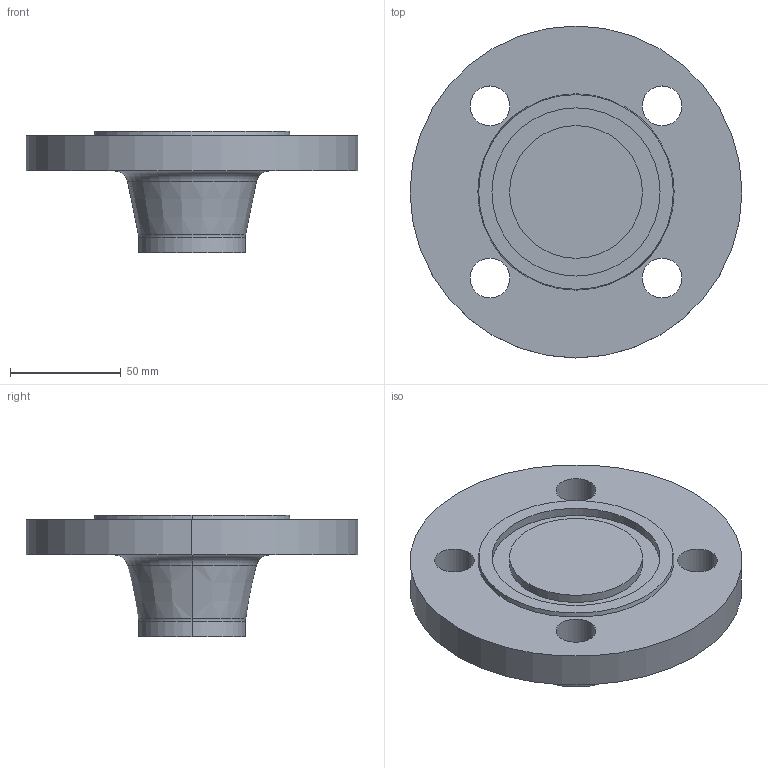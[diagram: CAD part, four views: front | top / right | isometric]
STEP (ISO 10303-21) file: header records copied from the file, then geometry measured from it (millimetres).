
FILE_DESCRIPTION (( 'STEP AP214' ), '1' );
FILE_NAME ('PN40 DN40 Type 21(ii) - Type D Face.STEP', '2018-12-30T01:28:39', ( '' ), ( '' ), 'SwSTEP 2.0', 'SolidWorks 2019', '' );
FILE_SCHEMA (( 'AUTOMOTIVE_DESIGN' ));
Length unit declared in the file: millimetre
Products named in the file (1): PN40 DN40 Type 21(ii) - Type D Face
Bounding box: 150 x 150 x 55 mm (x, y, z)
Volume: 354944.1 mm3; surface area: 51603.6 mm2
Topology: 1 solids, 1 shells, 30 faces, 66 edges, 42 vertices
Faces by surface type: cylinder 16, plane 6, torus 4, cone 4
Entity records: 898 total; most frequent: DIRECTION 174, CARTESIAN_POINT 139, ORIENTED_EDGE 132, AXIS2_PLACEMENT_3D 77, EDGE_CURVE 66, CIRCLE 46, VERTEX_POINT 42, EDGE_LOOP 42
